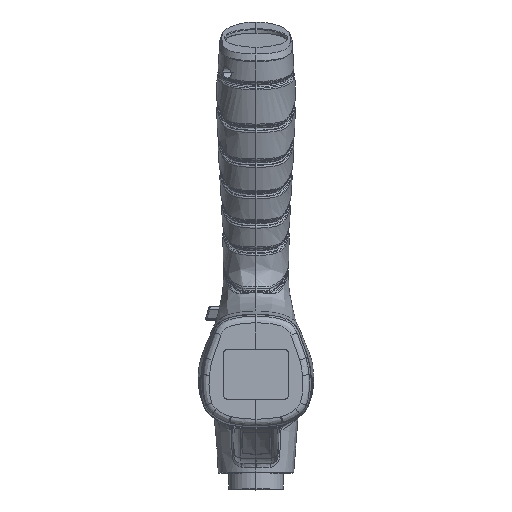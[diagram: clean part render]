
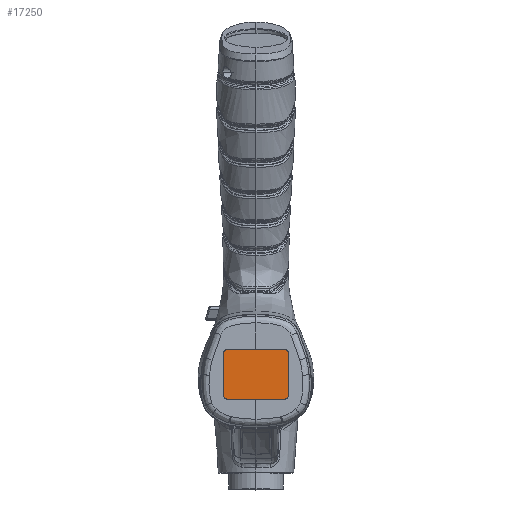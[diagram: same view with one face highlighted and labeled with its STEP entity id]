
A CAD part, top view. The second image highlights one B-rep face of the part: STEP entity #17250.
In plain terms, the highlighted planar face has unit normal (0, 0, 1).
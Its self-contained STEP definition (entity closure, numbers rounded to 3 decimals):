
#78 = EDGE_CURVE ( 'NONE', #139420, #75489, #124053, .T. ) ;
#126 = DIRECTION ( 'NONE',  ( 0., 0., 1. ) ) ;
#2299 = DIRECTION ( 'NONE',  ( 0., 1., 0. ) ) ;
#4328 = DIRECTION ( 'NONE',  ( 1., 0., 0. ) ) ;
#4630 = VERTEX_POINT ( 'NONE', #100698 ) ;
#4941 = VECTOR ( 'NONE', #128882, 1000. ) ;
#6413 = CARTESIAN_POINT ( 'NONE',  ( 12.65, -11.187, 157.65 ) ) ;
#11021 = AXIS2_PLACEMENT_3D ( 'NONE', #24247, #126, #57434 ) ;
#15937 = CIRCLE ( 'NONE', #100210, 1.475 ) ;
#17250 = ADVANCED_FACE ( 'NONE', ( #46625 ), #37552, .T. ) ;
#17740 = DIRECTION ( 'NONE',  ( 1., 0., 0. ) ) ;
#18768 = CARTESIAN_POINT ( 'NONE',  ( -12.65, 10.463, 157.65 ) ) ;
#21961 = CARTESIAN_POINT ( 'NONE',  ( -12.65, 8.988, 157.65 ) ) ;
#24232 = LINE ( 'NONE', #32528, #31956 ) ;
#24247 = CARTESIAN_POINT ( 'NONE',  ( 12.65, -9.712, 157.65 ) ) ;
#25962 = ORIENTED_EDGE ( 'NONE', *, *, #63790, .T. ) ;
#26925 = DIRECTION ( 'NONE',  ( 0., 0., 1. ) ) ;
#27035 = EDGE_CURVE ( 'NONE', #56933, #91431, #24232, .T. ) ;
#31956 = VECTOR ( 'NONE', #126804, 1000. ) ;
#32528 = CARTESIAN_POINT ( 'NONE',  ( 14.125, -9.712, 157.65 ) ) ;
#36853 = CARTESIAN_POINT ( 'NONE',  ( 12.65, 10.463, 157.65 ) ) ;
#37552 = PLANE ( 'NONE',  #107664 ) ;
#39492 = ORIENTED_EDGE ( 'NONE', *, *, #53191, .T. ) ;
#40001 = ORIENTED_EDGE ( 'NONE', *, *, #141403, .T. ) ;
#43911 = ORIENTED_EDGE ( 'NONE', *, *, #27035, .T. ) ;
#46371 = CARTESIAN_POINT ( 'NONE',  ( 14.125, 8.988, 157.65 ) ) ;
#46625 = FACE_OUTER_BOUND ( 'NONE', #87017, .T. ) ;
#47371 = DIRECTION ( 'NONE',  ( 0., 0., 1. ) ) ;
#47606 = VERTEX_POINT ( 'NONE', #18768 ) ;
#50194 = DIRECTION ( 'NONE',  ( -1., 0., 0. ) ) ;
#50309 = CARTESIAN_POINT ( 'NONE',  ( 12.65, 8.988, 157.65 ) ) ;
#51815 = ORIENTED_EDGE ( 'NONE', *, *, #78, .T. ) ;
#53191 = EDGE_CURVE ( 'NONE', #91431, #4630, #55343, .T. ) ;
#54553 = VECTOR ( 'NONE', #118270, 1000. ) ;
#55343 = CIRCLE ( 'NONE', #132467, 1.475 ) ;
#56933 = VERTEX_POINT ( 'NONE', #136343 ) ;
#57115 = CIRCLE ( 'NONE', #146301, 1.475 ) ;
#57434 = DIRECTION ( 'NONE',  ( 0., -1., 0. ) ) ;
#63790 = EDGE_CURVE ( 'NONE', #127061, #79776, #84344, .T. ) ;
#70202 = DIRECTION ( 'NONE',  ( 0., 0., 1. ) ) ;
#72267 = CARTESIAN_POINT ( 'NONE',  ( -14.125, 8.988, 157.65 ) ) ;
#75489 = VERTEX_POINT ( 'NONE', #6413 ) ;
#77010 = EDGE_CURVE ( 'NONE', #4630, #47606, #140207, .T. ) ;
#79776 = VERTEX_POINT ( 'NONE', #133611 ) ;
#80556 = VECTOR ( 'NONE', #17740, 1000. ) ;
#83116 = EDGE_CURVE ( 'NONE', #47606, #127061, #57115, .T. ) ;
#84344 = LINE ( 'NONE', #72267, #54553 ) ;
#87017 = EDGE_LOOP ( 'NONE', ( #43911, #39492, #102366, #137955, #25962, #40001, #51815, #104710 ) ) ;
#91431 = VERTEX_POINT ( 'NONE', #46371 ) ;
#92923 = CIRCLE ( 'NONE', #11021, 1.475 ) ;
#93973 = DIRECTION ( 'NONE',  ( 0., 0., 1. ) ) ;
#99904 = CARTESIAN_POINT ( 'NONE',  ( -12.65, -11.187, 157.65 ) ) ;
#100210 = AXIS2_PLACEMENT_3D ( 'NONE', #104499, #93973, #50194 ) ;
#100698 = CARTESIAN_POINT ( 'NONE',  ( 12.65, 10.463, 157.65 ) ) ;
#102366 = ORIENTED_EDGE ( 'NONE', *, *, #77010, .T. ) ;
#104499 = CARTESIAN_POINT ( 'NONE',  ( -12.65, -9.712, 157.65 ) ) ;
#104710 = ORIENTED_EDGE ( 'NONE', *, *, #122871, .T. ) ;
#107664 = AXIS2_PLACEMENT_3D ( 'NONE', #116034, #47371, #128845 ) ;
#116034 = CARTESIAN_POINT ( 'NONE',  ( 0., 2.117, 157.65 ) ) ;
#118270 = DIRECTION ( 'NONE',  ( 0., -1., 0. ) ) ;
#122871 = EDGE_CURVE ( 'NONE', #75489, #56933, #92923, .T. ) ;
#124053 = LINE ( 'NONE', #99904, #80556 ) ;
#126804 = DIRECTION ( 'NONE',  ( 0., 1., 0. ) ) ;
#127061 = VERTEX_POINT ( 'NONE', #140454 ) ;
#128845 = DIRECTION ( 'NONE',  ( -1., 0., 0. ) ) ;
#128882 = DIRECTION ( 'NONE',  ( -1., 0., 0. ) ) ;
#132467 = AXIS2_PLACEMENT_3D ( 'NONE', #50309, #26925, #4328 ) ;
#133611 = CARTESIAN_POINT ( 'NONE',  ( -14.125, -9.712, 157.65 ) ) ;
#136343 = CARTESIAN_POINT ( 'NONE',  ( 14.125, -9.712, 157.65 ) ) ;
#137955 = ORIENTED_EDGE ( 'NONE', *, *, #83116, .T. ) ;
#139420 = VERTEX_POINT ( 'NONE', #140118 ) ;
#140118 = CARTESIAN_POINT ( 'NONE',  ( -12.65, -11.187, 157.65 ) ) ;
#140207 = LINE ( 'NONE', #36853, #4941 ) ;
#140454 = CARTESIAN_POINT ( 'NONE',  ( -14.125, 8.988, 157.65 ) ) ;
#141403 = EDGE_CURVE ( 'NONE', #79776, #139420, #15937, .T. ) ;
#146301 = AXIS2_PLACEMENT_3D ( 'NONE', #21961, #70202, #2299 ) ;
